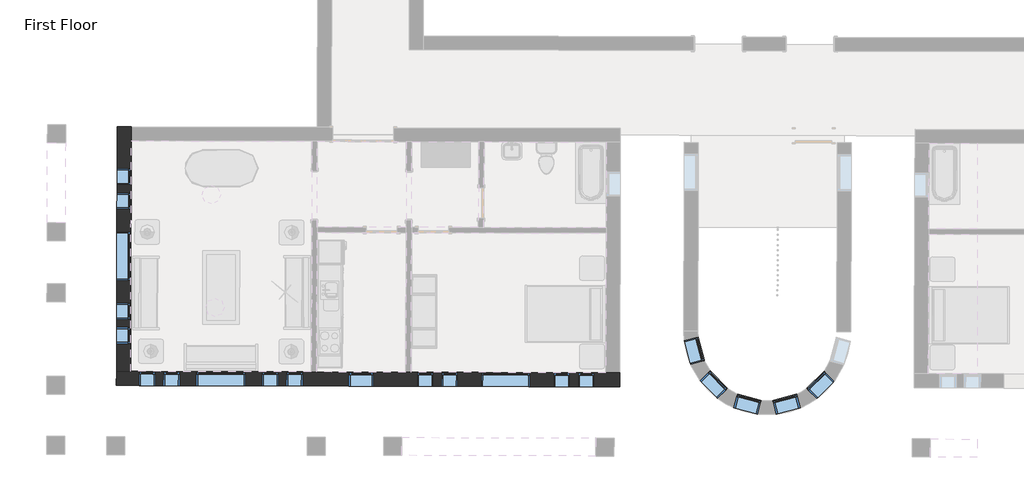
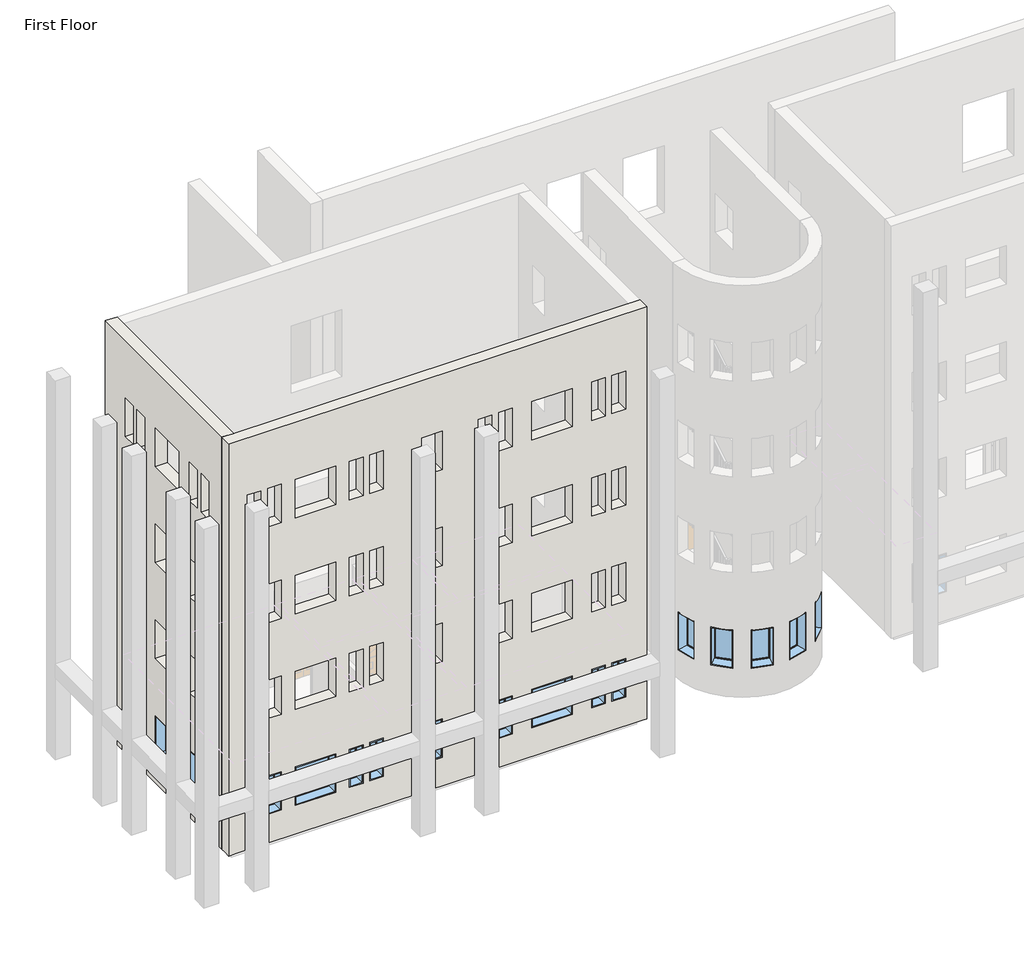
# One storey, part 1 of 23: 21 windows, 2 walls.
"""IFC4 building model written with IfcOpenShell, lengths in millimetres."""

from ifc_helpers import new_model, si_unit, origin, place, context, project, spatial, faceted_brep, transform, mapped, element, save
from components import m_fixed_0406_x_1220mm_57fee329, m_fixed_0406_x_1220mm_85c28f40, m_fixed_0610_x_1220mm_2c28ef1d, m_fixed_0610_x_1220mm_1ea27827, m_fixed_1220_x_1220mm_e08ff7af

model = new_model("IFC4")

# Units and contexts
model_context = context("Model", 3, world=origin())
ifc_project = project(units=[si_unit("LENGTHUNIT", "METRE", prefix="MILLI")], contexts=[model_context])

# Site, building, storey
site = spatial("IfcSite", under=ifc_project)
building = spatial("IfcBuilding", under=site)
storey = spatial("IfcBuildingStorey", under=building, Name="First Floor", Elevation=0.0)

# Walls
placement = place(None, origin())
element("IfcWall", 1, ObjectType="Exterior - Brick on Mtl. Stud", at=placement, inside=storey, context=model_context, shape_type="Brep", body=[
    faceted_brep([(-22692.7768917, -41765.4624379, 0.0), (-22877.7761166, -41764.9268899, 0.0), (-23042.7754252, -41764.4492391, 0.0), (-27891.2551095, -41750.4135399, 0.0), (-28026.7545418, -41750.0212871, 0.0), (-30244.9952471, -41743.5997775, 0.0), (-30380.4946793, -41743.2075247, 0.0), (-34884.7258061, -41730.168379, 0.0), (-35049.7251147, -41729.6907281, 0.0), (-35234.7243395, -41729.1551801, 0.0), (-35234.7243395, -41729.1551801, 13107.0), (-34884.7258061, -41730.168379, 13107.0), (-23042.7754252, -41764.4492391, 13107.0), (-22692.7768917, -41765.4624379, 13107.0), (-29440.8986163, -41745.9275295, 915.0), (-28830.9011723, -41747.6933904, 915.0), (-28830.9011723, -41747.6933904, 2135.0), (-29440.8986163, -41745.9275295, 2135.0), (-26144.7624275, -41755.4694022, 915.0), (-24924.7675394, -41759.001124, 915.0), (-24924.7675394, -41759.001124, 2135.0), (-26144.7624275, -41755.4694022, 2135.0), (-33242.6076867, -41734.922091, 915.0), (-32022.6127987, -41738.4538128, 915.0), (-32022.6127987, -41738.4538128, 2135.0), (-33242.6076867, -41734.922091, 2135.0), (-23730.7725424, -41762.4575796, 915.0), (-23324.7742436, -41763.6328902, 915.0), (-23324.7742436, -41763.6328902, 2135.0), (-23730.7725424, -41762.4575796, 2135.0), (-24340.7699865, -41760.6917187, 915.0), (-23934.7716876, -41761.8670294, 915.0), (-23934.7716876, -41761.8670294, 2135.0), (-24340.7699865, -41760.6917187, 2135.0), (-26728.7599805, -41753.7788075, 915.0), (-26728.7599805, -41753.7788075, 2135.0), (-27134.7582793, -41752.6034968, 2135.0), (-27134.7582793, -41752.6034968, 915.0), (-27338.7574246, -41752.0129466, 915.0), (-27338.7574246, -41752.0129466, 2135.0), (-27744.7557234, -41750.8376359, 2135.0), (-27744.7557234, -41750.8376359, 915.0), (-31607.739537, -41739.6548153, 915.0), (-31201.7412382, -41740.830126, 915.0), (-31201.7412382, -41740.830126, 2135.0), (-31607.739537, -41739.6548153, 2135.0), (-30997.742093, -41741.4206762, 915.0), (-30591.7437942, -41742.5959869, 915.0), (-30591.7437942, -41742.5959869, 2135.0), (-30997.742093, -41741.4206762, 2135.0), (-33657.4809484, -41733.7210885, 915.0), (-33657.4809484, -41733.7210885, 2135.0), (-34063.4792472, -41732.5457778, 2135.0), (-34063.4792472, -41732.5457778, 915.0), (-34267.4783924, -41731.9552276, 915.0), (-34267.4783924, -41731.9552276, 2135.0), (-34673.4766912, -41730.7799169, 2135.0), (-34673.4766912, -41730.7799169, 915.0), (-33657.4809484, -41733.7210885, 10059.0), (-33657.4809484, -41733.7210885, 11279.0), (-34063.4792472, -41732.5457778, 11279.0), (-34063.4792472, -41732.5457778, 10059.0), (-34267.4783924, -41731.9552276, 10059.0), (-34267.4783924, -41731.9552276, 11279.0), (-34673.4766912, -41730.7799169, 11279.0), (-34673.4766912, -41730.7799169, 10059.0), (-31607.739537, -41739.6548153, 10059.0), (-31201.7412382, -41740.830126, 10059.0), (-31201.7412382, -41740.830126, 11279.0), (-31607.739537, -41739.6548153, 11279.0), (-30997.742093, -41741.4206762, 10059.0), (-30591.7437942, -41742.5959869, 10059.0), (-30591.7437942, -41742.5959869, 11279.0), (-30997.742093, -41741.4206762, 11279.0), (-26728.7599805, -41753.7788075, 10059.0), (-26728.7599805, -41753.7788075, 11279.0), (-27134.7582793, -41752.6034968, 11279.0), (-27134.7582793, -41752.6034968, 10059.0), (-27338.7574246, -41752.0129466, 10059.0), (-27338.7574246, -41752.0129466, 11279.0), (-27744.7557234, -41750.8376359, 11279.0), (-27744.7557234, -41750.8376359, 10059.0), (-24340.7699865, -41760.6917187, 10059.0), (-23934.7716876, -41761.8670294, 10059.0), (-23934.7716876, -41761.8670294, 11279.0), (-24340.7699865, -41760.6917187, 11279.0), (-23730.7725424, -41762.4575796, 10059.0), (-23324.7742436, -41763.6328902, 10059.0), (-23324.7742436, -41763.6328902, 11279.0), (-23730.7725424, -41762.4575796, 11279.0), (-33242.6076867, -41734.922091, 10059.0), (-32022.6127987, -41738.4538128, 10059.0), (-32022.6127987, -41738.4538128, 11279.0), (-33242.6076867, -41734.922091, 11279.0), (-26144.7624275, -41755.4694022, 10059.0), (-24924.7675394, -41759.001124, 10059.0), (-24924.7675394, -41759.001124, 11279.0), (-26144.7624275, -41755.4694022, 11279.0), (-29440.8986163, -41745.9275295, 10059.0), (-28830.9011723, -41747.6933904, 10059.0), (-28830.9011723, -41747.6933904, 11279.0), (-29440.8986163, -41745.9275295, 11279.0), (-33657.4809484, -41733.7210885, 3963.0), (-33657.4809484, -41733.7210885, 5183.0), (-34063.4792472, -41732.5457778, 5183.0), (-34063.4792472, -41732.5457778, 3963.0), (-34267.4783924, -41731.9552276, 3963.0), (-34267.4783924, -41731.9552276, 5183.0), (-34673.4766912, -41730.7799169, 5183.0), (-34673.4766912, -41730.7799169, 3963.0), (-31607.739537, -41739.6548153, 3963.0), (-31201.7412382, -41740.830126, 3963.0), (-31201.7412382, -41740.830126, 5183.0), (-31607.739537, -41739.6548153, 5183.0), (-30997.742093, -41741.4206762, 3963.0), (-30591.7437942, -41742.5959869, 3963.0), (-30591.7437942, -41742.5959869, 5183.0), (-30997.742093, -41741.4206762, 5183.0), (-26728.7599805, -41753.7788075, 3963.0), (-26728.7599805, -41753.7788075, 5183.0), (-27134.7582793, -41752.6034968, 5183.0), (-27134.7582793, -41752.6034968, 3963.0), (-27338.7574246, -41752.0129466, 3963.0), (-27338.7574246, -41752.0129466, 5183.0), (-27744.7557234, -41750.8376359, 5183.0), (-27744.7557234, -41750.8376359, 3963.0), (-24340.7699865, -41760.6917187, 3963.0), (-23934.7716876, -41761.8670294, 3963.0), (-23934.7716876, -41761.8670294, 5183.0), (-24340.7699865, -41760.6917187, 5183.0), (-23730.7725424, -41762.4575796, 3963.0), (-23324.7742436, -41763.6328902, 3963.0), (-23324.7742436, -41763.6328902, 5183.0), (-23730.7725424, -41762.4575796, 5183.0), (-33242.6076867, -41734.922091, 3963.0), (-32022.6127987, -41738.4538128, 3963.0), (-32022.6127987, -41738.4538128, 5183.0), (-33242.6076867, -41734.922091, 5183.0), (-26144.7624275, -41755.4694022, 3963.0), (-24924.7675394, -41759.001124, 3963.0), (-24924.7675394, -41759.001124, 5183.0), (-26144.7624275, -41755.4694022, 5183.0), (-29440.8986163, -41745.9275295, 3963.0), (-28830.9011723, -41747.6933904, 3963.0), (-28830.9011723, -41747.6933904, 5183.0), (-29440.8986163, -41745.9275295, 5183.0), (-33657.4809484, -41733.7210885, 7011.0), (-33657.4809484, -41733.7210885, 8231.0), (-34063.4792472, -41732.5457778, 8231.0), (-34063.4792472, -41732.5457778, 7011.0), (-34267.4783924, -41731.9552276, 7011.0), (-34267.4783924, -41731.9552276, 8231.0), (-34673.4766912, -41730.7799169, 8231.0), (-34673.4766912, -41730.7799169, 7011.0), (-31607.739537, -41739.6548153, 7011.0), (-31201.7412382, -41740.830126, 7011.0), (-31201.7412382, -41740.830126, 8231.0), (-31607.739537, -41739.6548153, 8231.0), (-30997.742093, -41741.4206762, 7011.0), (-30591.7437942, -41742.5959869, 7011.0), (-30591.7437942, -41742.5959869, 8231.0), (-30997.742093, -41741.4206762, 8231.0), (-26728.7599805, -41753.7788075, 7011.0), (-26728.7599805, -41753.7788075, 8231.0), (-27134.7582793, -41752.6034968, 8231.0), (-27134.7582793, -41752.6034968, 7011.0), (-27338.7574246, -41752.0129466, 7011.0), (-27338.7574246, -41752.0129466, 8231.0), (-27744.7557234, -41750.8376359, 8231.0), (-27744.7557234, -41750.8376359, 7011.0), (-24340.7699865, -41760.6917187, 7011.0), (-23934.7716876, -41761.8670294, 7011.0), (-23934.7716876, -41761.8670294, 8231.0), (-24340.7699865, -41760.6917187, 8231.0), (-23730.7725424, -41762.4575796, 7011.0), (-23324.7742436, -41763.6328902, 7011.0), (-23324.7742436, -41763.6328902, 8231.0), (-23730.7725424, -41762.4575796, 8231.0), (-33242.6076867, -41734.922091, 7011.0), (-32022.6127987, -41738.4538128, 7011.0), (-32022.6127987, -41738.4538128, 8231.0), (-33242.6076867, -41734.922091, 8231.0), (-26144.7624275, -41755.4694022, 7011.0), (-24924.7675394, -41759.001124, 7011.0), (-24924.7675394, -41759.001124, 8231.0), (-26144.7624275, -41755.4694022, 8231.0), (-29440.8986163, -41745.9275295, 7011.0), (-28830.9011723, -41747.6933904, 7011.0), (-28830.9011723, -41747.6933904, 8231.0), (-29440.8986163, -41745.9275295, 8231.0), (-22693.7900906, -42115.4609714, 0.0), (-22693.7900906, -42115.4609714, 13107.0), (-35235.7375384, -42079.1537136, 13107.0), (-35235.7375384, -42079.1537136, 0.0), (-35050.7383136, -42079.6892616, 0.0), (-22878.7893155, -42114.9254234, 0.0), (-29441.9118152, -42095.9260629, 915.0), (-29441.9118152, -42095.9260629, 2135.0), (-28831.9143712, -42097.6919238, 2135.0), (-28831.9143712, -42097.6919238, 915.0), (-26145.7756264, -42105.4679357, 915.0), (-26145.7756264, -42105.4679357, 2135.0), (-24925.7807383, -42108.9996575, 2135.0), (-24925.7807383, -42108.9996575, 915.0), (-33243.6208856, -42084.9206245, 915.0), (-33243.6208856, -42084.9206245, 2135.0), (-32023.6259975, -42088.4523462, 2135.0), (-32023.6259975, -42088.4523462, 915.0), (-23731.7857413, -42112.456113, 915.0), (-23731.7857413, -42112.456113, 2135.0), (-23325.7874425, -42113.6314237, 2135.0), (-23325.7874425, -42113.6314237, 915.0), (-24341.7831853, -42110.6902521, 915.0), (-24341.7831853, -42110.6902521, 2135.0), (-23935.7848865, -42111.8655628, 2135.0), (-23935.7848865, -42111.8655628, 915.0), (-26729.7731794, -42103.777341, 915.0), (-27135.7714782, -42102.6020303, 915.0), (-27135.7714782, -42102.6020303, 2135.0), (-26729.7731794, -42103.777341, 2135.0), (-27339.7706234, -42102.0114801, 915.0), (-27745.7689222, -42100.8361694, 915.0), (-27745.7689222, -42100.8361694, 2135.0), (-27339.7706234, -42102.0114801, 2135.0), (-31608.7527359, -42089.6533487, 915.0), (-31608.7527359, -42089.6533487, 2135.0), (-31202.7544371, -42090.8286594, 2135.0), (-31202.7544371, -42090.8286594, 915.0), (-30998.7552919, -42091.4192096, 915.0), (-30998.7552919, -42091.4192096, 2135.0), (-30592.756993, -42092.5945203, 2135.0), (-30592.756993, -42092.5945203, 915.0), (-33658.4941472, -42083.7196219, 915.0), (-34064.4924461, -42082.5443112, 915.0), (-34064.4924461, -42082.5443112, 2135.0), (-33658.4941472, -42083.7196219, 2135.0), (-34268.4915913, -42081.953761, 915.0), (-34674.4898901, -42080.7784504, 915.0), (-34674.4898901, -42080.7784504, 2135.0), (-34268.4915913, -42081.953761, 2135.0), (-33658.4941472, -42083.7196219, 10059.0), (-34064.4924461, -42082.5443112, 10059.0), (-34064.4924461, -42082.5443112, 11279.0), (-33658.4941472, -42083.7196219, 11279.0), (-34268.4915913, -42081.953761, 10059.0), (-34674.4898901, -42080.7784504, 10059.0), (-34674.4898901, -42080.7784504, 11279.0), (-34268.4915913, -42081.953761, 11279.0), (-31608.7527359, -42089.6533487, 10059.0), (-31608.7527359, -42089.6533487, 11279.0), (-31202.7544371, -42090.8286594, 11279.0), (-31202.7544371, -42090.8286594, 10059.0), (-30998.7552919, -42091.4192096, 10059.0), (-30998.7552919, -42091.4192096, 11279.0), (-30592.756993, -42092.5945203, 11279.0), (-30592.756993, -42092.5945203, 10059.0), (-26729.7731794, -42103.777341, 10059.0), (-27135.7714782, -42102.6020303, 10059.0), (-27135.7714782, -42102.6020303, 11279.0), (-26729.7731794, -42103.777341, 11279.0), (-27339.7706234, -42102.0114801, 10059.0), (-27745.7689222, -42100.8361694, 10059.0), (-27745.7689222, -42100.8361694, 11279.0), (-27339.7706234, -42102.0114801, 11279.0), (-24341.7831853, -42110.6902521, 10059.0), (-24341.7831853, -42110.6902521, 11279.0), (-23935.7848865, -42111.8655628, 11279.0), (-23935.7848865, -42111.8655628, 10059.0), (-23731.7857413, -42112.456113, 10059.0), (-23731.7857413, -42112.456113, 11279.0), (-23325.7874425, -42113.6314237, 11279.0), (-23325.7874425, -42113.6314237, 10059.0), (-33243.6208856, -42084.9206245, 10059.0), (-33243.6208856, -42084.9206245, 11279.0), (-32023.6259975, -42088.4523462, 11279.0), (-32023.6259975, -42088.4523462, 10059.0), (-26145.7756264, -42105.4679357, 10059.0), (-26145.7756264, -42105.4679357, 11279.0), (-24925.7807383, -42108.9996575, 11279.0), (-24925.7807383, -42108.9996575, 10059.0), (-29441.9118152, -42095.9260629, 10059.0), (-29441.9118152, -42095.9260629, 11279.0), (-28831.9143712, -42097.6919238, 11279.0), (-28831.9143712, -42097.6919238, 10059.0), (-33658.4941472, -42083.7196219, 3963.0), (-34064.4924461, -42082.5443112, 3963.0), (-34064.4924461, -42082.5443112, 5183.0), (-33658.4941472, -42083.7196219, 5183.0), (-34268.4915913, -42081.953761, 3963.0), (-34674.4898901, -42080.7784504, 3963.0), (-34674.4898901, -42080.7784504, 5183.0), (-34268.4915913, -42081.953761, 5183.0), (-31608.7527359, -42089.6533487, 3963.0), (-31608.7527359, -42089.6533487, 5183.0), (-31202.7544371, -42090.8286594, 5183.0), (-31202.7544371, -42090.8286594, 3963.0), (-30998.7552919, -42091.4192096, 3963.0), (-30998.7552919, -42091.4192096, 5183.0), (-30592.756993, -42092.5945203, 5183.0), (-30592.756993, -42092.5945203, 3963.0), (-26729.7731794, -42103.777341, 3963.0), (-27135.7714782, -42102.6020303, 3963.0), (-27135.7714782, -42102.6020303, 5183.0), (-26729.7731794, -42103.777341, 5183.0), (-27339.7706234, -42102.0114801, 3963.0), (-27745.7689222, -42100.8361694, 3963.0), (-27745.7689222, -42100.8361694, 5183.0), (-27339.7706234, -42102.0114801, 5183.0), (-24341.7831853, -42110.6902521, 3963.0), (-24341.7831853, -42110.6902521, 5183.0), (-23935.7848865, -42111.8655628, 5183.0), (-23935.7848865, -42111.8655628, 3963.0), (-23731.7857413, -42112.456113, 3963.0), (-23731.7857413, -42112.456113, 5183.0), (-23325.7874425, -42113.6314237, 5183.0), (-23325.7874425, -42113.6314237, 3963.0), (-33243.6208856, -42084.9206245, 3963.0), (-33243.6208856, -42084.9206245, 5183.0), (-32023.6259975, -42088.4523462, 5183.0), (-32023.6259975, -42088.4523462, 3963.0), (-26145.7756264, -42105.4679357, 3963.0), (-26145.7756264, -42105.4679357, 5183.0), (-24925.7807383, -42108.9996575, 5183.0), (-24925.7807383, -42108.9996575, 3963.0), (-29441.9118152, -42095.9260629, 3963.0), (-29441.9118152, -42095.9260629, 5183.0), (-28831.9143712, -42097.6919238, 5183.0), (-28831.9143712, -42097.6919238, 3963.0), (-33658.4941472, -42083.7196219, 7011.0), (-34064.4924461, -42082.5443112, 7011.0), (-34064.4924461, -42082.5443112, 8231.0), (-33658.4941472, -42083.7196219, 8231.0), (-34268.4915913, -42081.953761, 7011.0), (-34674.4898901, -42080.7784504, 7011.0), (-34674.4898901, -42080.7784504, 8231.0), (-34268.4915913, -42081.953761, 8231.0), (-31608.7527359, -42089.6533487, 7011.0), (-31608.7527359, -42089.6533487, 8231.0), (-31202.7544371, -42090.8286594, 8231.0), (-31202.7544371, -42090.8286594, 7011.0), (-30998.7552919, -42091.4192096, 7011.0), (-30998.7552919, -42091.4192096, 8231.0), (-30592.756993, -42092.5945203, 8231.0), (-30592.756993, -42092.5945203, 7011.0), (-26729.7731794, -42103.777341, 7011.0), (-27135.7714782, -42102.6020303, 7011.0), (-27135.7714782, -42102.6020303, 8231.0), (-26729.7731794, -42103.777341, 8231.0), (-27339.7706234, -42102.0114801, 7011.0), (-27745.7689222, -42100.8361694, 7011.0), (-27745.7689222, -42100.8361694, 8231.0), (-27339.7706234, -42102.0114801, 8231.0), (-24341.7831853, -42110.6902521, 7011.0), (-24341.7831853, -42110.6902521, 8231.0), (-23935.7848865, -42111.8655628, 8231.0), (-23935.7848865, -42111.8655628, 7011.0), (-23731.7857413, -42112.456113, 7011.0), (-23731.7857413, -42112.456113, 8231.0), (-23325.7874425, -42113.6314237, 8231.0), (-23325.7874425, -42113.6314237, 7011.0), (-33243.6208856, -42084.9206245, 7011.0), (-33243.6208856, -42084.9206245, 8231.0), (-32023.6259975, -42088.4523462, 8231.0), (-32023.6259975, -42088.4523462, 7011.0), (-26145.7756264, -42105.4679357, 7011.0), (-26145.7756264, -42105.4679357, 8231.0), (-24925.7807383, -42108.9996575, 8231.0), (-24925.7807383, -42108.9996575, 7011.0), (-29441.9118152, -42095.9260629, 7011.0), (-29441.9118152, -42095.9260629, 8231.0), (-28831.9143712, -42097.6919238, 8231.0), (-28831.9143712, -42097.6919238, 7011.0), (-35235.2019904, -41894.1544888, 0.0), (-22693.2545426, -41930.4617466, 0.0), (-22878.2537675, -41929.9261986, 0.0), (-35050.2027656, -41894.6900367, 0.0)], [[[0, 1, 2, 3, 4, 5, 6, 7, 8, 9, 10, 11, 12, 13], [14, 15, 16, 17], [18, 19, 20, 21], [22, 23, 24, 25], [26, 27, 28, 29], [30, 31, 32, 33], [34, 35, 36, 37], [38, 39, 40, 41], [42, 43, 44, 45], [46, 47, 48, 49], [50, 51, 52, 53], [54, 55, 56, 57], [58, 59, 60, 61], [62, 63, 64, 65], [66, 67, 68, 69], [70, 71, 72, 73], [74, 75, 76, 77], [78, 79, 80, 81], [82, 83, 84, 85], [86, 87, 88, 89], [90, 91, 92, 93], [94, 95, 96, 97], [98, 99, 100, 101], [102, 103, 104, 105], [106, 107, 108, 109], [110, 111, 112, 113], [114, 115, 116, 117], [118, 119, 120, 121], [122, 123, 124, 125], [126, 127, 128, 129], [130, 131, 132, 133], [134, 135, 136, 137], [138, 139, 140, 141], [142, 143, 144, 145], [146, 147, 148, 149], [150, 151, 152, 153], [154, 155, 156, 157], [158, 159, 160, 161], [162, 163, 164, 165], [166, 167, 168, 169], [170, 171, 172, 173], [174, 175, 176, 177], [178, 179, 180, 181], [182, 183, 184, 185], [186, 187, 188, 189]], [[190, 191, 192, 193, 194, 195], [196, 197, 198, 199], [200, 201, 202, 203], [204, 205, 206, 207], [208, 209, 210, 211], [212, 213, 214, 215], [216, 217, 218, 219], [220, 221, 222, 223], [224, 225, 226, 227], [228, 229, 230, 231], [232, 233, 234, 235], [236, 237, 238, 239], [240, 241, 242, 243], [244, 245, 246, 247], [248, 249, 250, 251], [252, 253, 254, 255], [256, 257, 258, 259], [260, 261, 262, 263], [264, 265, 266, 267], [268, 269, 270, 271], [272, 273, 274, 275], [276, 277, 278, 279], [280, 281, 282, 283], [284, 285, 286, 287], [288, 289, 290, 291], [292, 293, 294, 295], [296, 297, 298, 299], [300, 301, 302, 303], [304, 305, 306, 307], [308, 309, 310, 311], [312, 313, 314, 315], [316, 317, 318, 319], [320, 321, 322, 323], [324, 325, 326, 327], [328, 329, 330, 331], [332, 333, 334, 335], [336, 337, 338, 339], [340, 341, 342, 343], [344, 345, 346, 347], [348, 349, 350, 351], [352, 353, 354, 355], [356, 357, 358, 359], [360, 361, 362, 363], [364, 365, 366, 367], [368, 369, 370, 371]], [[13, 12, 11, 10, 192, 191]], [[10, 9, 372, 193, 192]], [[0, 13, 191, 190, 373]], [[197, 196, 14, 17]], [[198, 197, 17, 16]], [[199, 198, 16, 15]], [[196, 199, 15, 14]], [[201, 200, 18, 21]], [[202, 201, 21, 20]], [[203, 202, 20, 19]], [[200, 203, 19, 18]], [[205, 204, 22, 25]], [[206, 205, 25, 24]], [[207, 206, 24, 23]], [[204, 207, 23, 22]], [[209, 208, 26, 29]], [[210, 209, 29, 28]], [[211, 210, 28, 27]], [[208, 211, 27, 26]], [[213, 212, 30, 33]], [[214, 213, 33, 32]], [[215, 214, 32, 31]], [[212, 215, 31, 30]], [[35, 34, 216, 219]], [[36, 35, 219, 218]], [[37, 36, 218, 217]], [[34, 37, 217, 216]], [[39, 38, 220, 223]], [[40, 39, 223, 222]], [[41, 40, 222, 221]], [[38, 41, 221, 220]], [[225, 224, 42, 45]], [[226, 225, 45, 44]], [[227, 226, 44, 43]], [[224, 227, 43, 42]], [[229, 228, 46, 49]], [[230, 229, 49, 48]], [[231, 230, 48, 47]], [[228, 231, 47, 46]], [[51, 50, 232, 235]], [[52, 51, 235, 234]], [[53, 52, 234, 233]], [[50, 53, 233, 232]], [[55, 54, 236, 239]], [[56, 55, 239, 238]], [[57, 56, 238, 237]], [[54, 57, 237, 236]], [[1, 0, 373, 374]], [[373, 190, 195, 374]], [[9, 8, 375, 372]], [[195, 194, 375, 374]], [[194, 193, 372, 375]], [[8, 7, 6, 5, 4, 3, 2, 1, 374, 375]], [[59, 58, 240, 243]], [[60, 59, 243, 242]], [[61, 60, 242, 241]], [[58, 61, 241, 240]], [[63, 62, 244, 247]], [[64, 63, 247, 246]], [[65, 64, 246, 245]], [[62, 65, 245, 244]], [[249, 248, 66, 69]], [[250, 249, 69, 68]], [[251, 250, 68, 67]], [[248, 251, 67, 66]], [[253, 252, 70, 73]], [[254, 253, 73, 72]], [[255, 254, 72, 71]], [[252, 255, 71, 70]], [[75, 74, 256, 259]], [[76, 75, 259, 258]], [[77, 76, 258, 257]], [[74, 77, 257, 256]], [[79, 78, 260, 263]], [[80, 79, 263, 262]], [[81, 80, 262, 261]], [[78, 81, 261, 260]], [[265, 264, 82, 85]], [[266, 265, 85, 84]], [[267, 266, 84, 83]], [[264, 267, 83, 82]], [[269, 268, 86, 89]], [[270, 269, 89, 88]], [[271, 270, 88, 87]], [[268, 271, 87, 86]], [[273, 272, 90, 93]], [[274, 273, 93, 92]], [[275, 274, 92, 91]], [[272, 275, 91, 90]], [[277, 276, 94, 97]], [[278, 277, 97, 96]], [[279, 278, 96, 95]], [[276, 279, 95, 94]], [[281, 280, 98, 101]], [[282, 281, 101, 100]], [[283, 282, 100, 99]], [[280, 283, 99, 98]], [[103, 102, 284, 287]], [[104, 103, 287, 286]], [[105, 104, 286, 285]], [[102, 105, 285, 284]], [[107, 106, 288, 291]], [[108, 107, 291, 290]], [[109, 108, 290, 289]], [[106, 109, 289, 288]], [[293, 292, 110, 113]], [[294, 293, 113, 112]], [[295, 294, 112, 111]], [[292, 295, 111, 110]], [[297, 296, 114, 117]], [[298, 297, 117, 116]], [[299, 298, 116, 115]], [[296, 299, 115, 114]], [[119, 118, 300, 303]], [[120, 119, 303, 302]], [[121, 120, 302, 301]], [[118, 121, 301, 300]], [[123, 122, 304, 307]], [[124, 123, 307, 306]], [[125, 124, 306, 305]], [[122, 125, 305, 304]], [[309, 308, 126, 129]], [[310, 309, 129, 128]], [[311, 310, 128, 127]], [[308, 311, 127, 126]], [[313, 312, 130, 133]], [[314, 313, 133, 132]], [[315, 314, 132, 131]], [[312, 315, 131, 130]], [[317, 316, 134, 137]], [[318, 317, 137, 136]], [[319, 318, 136, 135]], [[316, 319, 135, 134]], [[321, 320, 138, 141]], [[322, 321, 141, 140]], [[323, 322, 140, 139]], [[320, 323, 139, 138]], [[325, 324, 142, 145]], [[326, 325, 145, 144]], [[327, 326, 144, 143]], [[324, 327, 143, 142]], [[147, 146, 328, 331]], [[148, 147, 331, 330]], [[149, 148, 330, 329]], [[146, 149, 329, 328]], [[151, 150, 332, 335]], [[152, 151, 335, 334]], [[153, 152, 334, 333]], [[150, 153, 333, 332]], [[337, 336, 154, 157]], [[338, 337, 157, 156]], [[339, 338, 156, 155]], [[336, 339, 155, 154]], [[341, 340, 158, 161]], [[342, 341, 161, 160]], [[343, 342, 160, 159]], [[340, 343, 159, 158]], [[163, 162, 344, 347]], [[164, 163, 347, 346]], [[165, 164, 346, 345]], [[162, 165, 345, 344]], [[167, 166, 348, 351]], [[168, 167, 351, 350]], [[169, 168, 350, 349]], [[166, 169, 349, 348]], [[353, 352, 170, 173]], [[354, 353, 173, 172]], [[355, 354, 172, 171]], [[352, 355, 171, 170]], [[357, 356, 174, 177]], [[358, 357, 177, 176]], [[359, 358, 176, 175]], [[356, 359, 175, 174]], [[361, 360, 178, 181]], [[362, 361, 181, 180]], [[363, 362, 180, 179]], [[360, 363, 179, 178]], [[365, 364, 182, 185]], [[366, 365, 185, 184]], [[367, 366, 184, 183]], [[364, 367, 183, 182]], [[369, 368, 186, 189]], [[370, 369, 189, 188]], [[371, 370, 188, 187]], [[368, 371, 187, 186]]]),
])
element("IfcWall", 2, ObjectType="Exterior - Brick on Mtl. Stud", at=placement, inside=storey, context=model_context, shape_type="Brep", body=[
    faceted_brep([(-34884.7258061, -41730.168379, 0.0), (-34868.0919755, -35984.1924553, 0.0), (-34867.6143246, -35819.1931467, 0.0), (-34867.0787766, -35634.1939218, 0.0), (-34867.0787766, -35634.1939218, 13107.0), (-34868.0919755, -35984.1924553, 13107.0), (-34884.7258061, -41730.168379, 13107.0), (-34874.6430299, -38247.1829731, 915.0), (-34878.1747517, -39467.1778612, 915.0), (-34878.1747517, -39467.1778612, 2135.0), (-34874.6430299, -38247.1829731, 2135.0), (-34879.7900801, -40025.1755231, 915.0), (-34880.9653908, -40431.1738219, 915.0), (-34880.9653908, -40431.1738219, 2135.0), (-34879.7900801, -40025.1755231, 2135.0), (-34881.555941, -40635.1729672, 915.0), (-34882.7312517, -41041.171266, 915.0), (-34882.7312517, -41041.171266, 2135.0), (-34881.555941, -40635.1729672, 2135.0), (-34873.0277014, -37689.1853112, 915.0), (-34873.0277014, -37689.1853112, 2135.0), (-34871.8523907, -37283.1870124, 2135.0), (-34871.8523907, -37283.1870124, 915.0), (-34871.2618405, -37079.1878671, 915.0), (-34871.2618405, -37079.1878671, 2135.0), (-34870.0865298, -36673.1895683, 2135.0), (-34870.0865298, -36673.1895683, 915.0), (-34873.0277014, -37689.1853112, 10059.0), (-34873.0277014, -37689.1853112, 11279.0), (-34871.8523907, -37283.1870124, 11279.0), (-34871.8523907, -37283.1870124, 10059.0), (-34871.2618405, -37079.1878671, 10059.0), (-34871.2618405, -37079.1878671, 11279.0), (-34870.0865298, -36673.1895683, 11279.0), (-34870.0865298, -36673.1895683, 10059.0), (-34879.7900801, -40025.1755231, 10059.0), (-34880.9653908, -40431.1738219, 10059.0), (-34880.9653908, -40431.1738219, 11279.0), (-34879.7900801, -40025.1755231, 11279.0), (-34881.555941, -40635.1729672, 10059.0), (-34882.7312517, -41041.171266, 10059.0), (-34882.7312517, -41041.171266, 11279.0), (-34881.555941, -40635.1729672, 11279.0), (-34874.6430299, -38247.1829731, 10059.0), (-34878.1747517, -39467.1778612, 10059.0), (-34878.1747517, -39467.1778612, 11279.0), (-34874.6430299, -38247.1829731, 11279.0), (-34873.0277014, -37689.1853112, 3963.0), (-34873.0277014, -37689.1853112, 5183.0), (-34871.8523907, -37283.1870124, 5183.0), (-34871.8523907, -37283.1870124, 3963.0), (-34871.2618405, -37079.1878671, 3963.0), (-34871.2618405, -37079.1878671, 5183.0), (-34870.0865298, -36673.1895683, 5183.0), (-34870.0865298, -36673.1895683, 3963.0), (-34879.7900801, -40025.1755231, 3963.0), (-34880.9653908, -40431.1738219, 3963.0), (-34880.9653908, -40431.1738219, 5183.0), (-34879.7900801, -40025.1755231, 5183.0), (-34881.555941, -40635.1729672, 3963.0), (-34882.7312517, -41041.171266, 3963.0), (-34882.7312517, -41041.171266, 5183.0), (-34881.555941, -40635.1729672, 5183.0), (-34874.6430299, -38247.1829731, 3963.0), (-34878.1747517, -39467.1778612, 3963.0), (-34878.1747517, -39467.1778612, 5183.0), (-34874.6430299, -38247.1829731, 5183.0), (-34873.0277014, -37689.1853112, 7011.0), (-34873.0277014, -37689.1853112, 8231.0), (-34871.8523907, -37283.1870124, 8231.0), (-34871.8523907, -37283.1870124, 7011.0), (-34871.2618405, -37079.1878671, 7011.0), (-34871.2618405, -37079.1878671, 8231.0), (-34870.0865298, -36673.1895683, 8231.0), (-34870.0865298, -36673.1895683, 7011.0), (-34879.7900801, -40025.1755231, 7011.0), (-34880.9653908, -40431.1738219, 7011.0), (-34880.9653908, -40431.1738219, 8231.0), (-34879.7900801, -40025.1755231, 8231.0), (-34881.555941, -40635.1729672, 7011.0), (-34882.7312517, -41041.171266, 7011.0), (-34882.7312517, -41041.171266, 8231.0), (-34881.555941, -40635.1729672, 8231.0), (-34874.6430299, -38247.1829731, 7011.0), (-34878.1747517, -39467.1778612, 7011.0), (-34878.1747517, -39467.1778612, 8231.0), (-34874.6430299, -38247.1829731, 8231.0), (-35234.7243395, -41729.1551801, 0.0), (-35234.7243395, -41729.1551801, 13107.0), (-35217.0773101, -35633.180723, 13107.0), (-35217.0773101, -35633.180723, 0.0), (-35217.612858, -35818.1799478, 0.0), (-35224.6415634, -38246.1697742, 915.0), (-35224.6415634, -38246.1697742, 2135.0), (-35228.1732851, -39466.1646623, 2135.0), (-35228.1732851, -39466.1646623, 915.0), (-35229.7886136, -40024.1623242, 915.0), (-35229.7886136, -40024.1623242, 2135.0), (-35230.9639243, -40430.1606231, 2135.0), (-35230.9639243, -40430.1606231, 915.0), (-35231.5544745, -40634.1597683, 915.0), (-35231.5544745, -40634.1597683, 2135.0), (-35232.7297852, -41040.1580671, 2135.0), (-35232.7297852, -41040.1580671, 915.0), (-35223.0262349, -37688.1721123, 915.0), (-35221.8509242, -37282.1738135, 915.0), (-35221.8509242, -37282.1738135, 2135.0), (-35223.0262349, -37688.1721123, 2135.0), (-35221.260374, -37078.1746683, 915.0), (-35220.0850633, -36672.1763695, 915.0), (-35220.0850633, -36672.1763695, 2135.0), (-35221.260374, -37078.1746683, 2135.0), (-35223.0262349, -37688.1721123, 10059.0), (-35221.8509242, -37282.1738135, 10059.0), (-35221.8509242, -37282.1738135, 11279.0), (-35223.0262349, -37688.1721123, 11279.0), (-35221.260374, -37078.1746683, 10059.0), (-35220.0850633, -36672.1763695, 10059.0), (-35220.0850633, -36672.1763695, 11279.0), (-35221.260374, -37078.1746683, 11279.0), (-35229.7886136, -40024.1623242, 10059.0), (-35229.7886136, -40024.1623242, 11279.0), (-35230.9639243, -40430.1606231, 11279.0), (-35230.9639243, -40430.1606231, 10059.0), (-35231.5544745, -40634.1597683, 10059.0), (-35231.5544745, -40634.1597683, 11279.0), (-35232.7297852, -41040.1580671, 11279.0), (-35232.7297852, -41040.1580671, 10059.0), (-35224.6415634, -38246.1697742, 10059.0), (-35224.6415634, -38246.1697742, 11279.0), (-35228.1732851, -39466.1646623, 11279.0), (-35228.1732851, -39466.1646623, 10059.0), (-35223.0262349, -37688.1721123, 3963.0), (-35221.8509242, -37282.1738135, 3963.0), (-35221.8509242, -37282.1738135, 5183.0), (-35223.0262349, -37688.1721123, 5183.0), (-35221.260374, -37078.1746683, 3963.0), (-35220.0850633, -36672.1763695, 3963.0), (-35220.0850633, -36672.1763695, 5183.0), (-35221.260374, -37078.1746683, 5183.0), (-35229.7886136, -40024.1623242, 3963.0), (-35229.7886136, -40024.1623242, 5183.0), (-35230.9639243, -40430.1606231, 5183.0), (-35230.9639243, -40430.1606231, 3963.0), (-35231.5544745, -40634.1597683, 3963.0), (-35231.5544745, -40634.1597683, 5183.0), (-35232.7297852, -41040.1580671, 5183.0), (-35232.7297852, -41040.1580671, 3963.0), (-35224.6415634, -38246.1697742, 3963.0), (-35224.6415634, -38246.1697742, 5183.0), (-35228.1732851, -39466.1646623, 5183.0), (-35228.1732851, -39466.1646623, 3963.0), (-35223.0262349, -37688.1721123, 7011.0), (-35221.8509242, -37282.1738135, 7011.0), (-35221.8509242, -37282.1738135, 8231.0), (-35223.0262349, -37688.1721123, 8231.0), (-35221.260374, -37078.1746683, 7011.0), (-35220.0850633, -36672.1763695, 7011.0), (-35220.0850633, -36672.1763695, 8231.0), (-35221.260374, -37078.1746683, 8231.0), (-35229.7886136, -40024.1623242, 7011.0), (-35229.7886136, -40024.1623242, 8231.0), (-35230.9639243, -40430.1606231, 8231.0), (-35230.9639243, -40430.1606231, 7011.0), (-35231.5544745, -40634.1597683, 7011.0), (-35231.5544745, -40634.1597683, 8231.0), (-35232.7297852, -41040.1580671, 8231.0), (-35232.7297852, -41040.1580671, 7011.0), (-35224.6415634, -38246.1697742, 7011.0), (-35224.6415634, -38246.1697742, 8231.0), (-35228.1732851, -39466.1646623, 8231.0), (-35228.1732851, -39466.1646623, 7011.0), (-35049.7251147, -41729.6907281, 0.0), (-35032.0780852, -35633.7162709, 0.0), (-35032.6136332, -35818.7154958, 0.0)], [[[0, 1, 2, 3, 4, 5, 6], [7, 8, 9, 10], [11, 12, 13, 14], [15, 16, 17, 18], [19, 20, 21, 22], [23, 24, 25, 26], [27, 28, 29, 30], [31, 32, 33, 34], [35, 36, 37, 38], [39, 40, 41, 42], [43, 44, 45, 46], [47, 48, 49, 50], [51, 52, 53, 54], [55, 56, 57, 58], [59, 60, 61, 62], [63, 64, 65, 66], [67, 68, 69, 70], [71, 72, 73, 74], [75, 76, 77, 78], [79, 80, 81, 82], [83, 84, 85, 86]], [[87, 88, 89, 90, 91], [92, 93, 94, 95], [96, 97, 98, 99], [100, 101, 102, 103], [104, 105, 106, 107], [108, 109, 110, 111], [112, 113, 114, 115], [116, 117, 118, 119], [120, 121, 122, 123], [124, 125, 126, 127], [128, 129, 130, 131], [132, 133, 134, 135], [136, 137, 138, 139], [140, 141, 142, 143], [144, 145, 146, 147], [148, 149, 150, 151], [152, 153, 154, 155], [156, 157, 158, 159], [160, 161, 162, 163], [164, 165, 166, 167], [168, 169, 170, 171]], [[6, 5, 4, 89, 88]], [[0, 6, 88, 87, 172]], [[4, 3, 173, 90, 89]], [[93, 92, 7, 10]], [[94, 93, 10, 9]], [[95, 94, 9, 8]], [[92, 95, 8, 7]], [[97, 96, 11, 14]], [[98, 97, 14, 13]], [[99, 98, 13, 12]], [[96, 99, 12, 11]], [[101, 100, 15, 18]], [[102, 101, 18, 17]], [[103, 102, 17, 16]], [[100, 103, 16, 15]], [[20, 19, 104, 107]], [[21, 20, 107, 106]], [[22, 21, 106, 105]], [[19, 22, 105, 104]], [[24, 23, 108, 111]], [[25, 24, 111, 110]], [[26, 25, 110, 109]], [[23, 26, 109, 108]], [[172, 87, 91, 174]], [[3, 2, 174, 173]], [[174, 91, 90, 173]], [[2, 1, 0, 172, 174]], [[28, 27, 112, 115]], [[29, 28, 115, 114]], [[30, 29, 114, 113]], [[27, 30, 113, 112]], [[32, 31, 116, 119]], [[33, 32, 119, 118]], [[34, 33, 118, 117]], [[31, 34, 117, 116]], [[121, 120, 35, 38]], [[122, 121, 38, 37]], [[123, 122, 37, 36]], [[120, 123, 36, 35]], [[125, 124, 39, 42]], [[126, 125, 42, 41]], [[127, 126, 41, 40]], [[124, 127, 40, 39]], [[129, 128, 43, 46]], [[130, 129, 46, 45]], [[131, 130, 45, 44]], [[128, 131, 44, 43]], [[48, 47, 132, 135]], [[49, 48, 135, 134]], [[50, 49, 134, 133]], [[47, 50, 133, 132]], [[52, 51, 136, 139]], [[53, 52, 139, 138]], [[54, 53, 138, 137]], [[51, 54, 137, 136]], [[141, 140, 55, 58]], [[142, 141, 58, 57]], [[143, 142, 57, 56]], [[140, 143, 56, 55]], [[145, 144, 59, 62]], [[146, 145, 62, 61]], [[147, 146, 61, 60]], [[144, 147, 60, 59]], [[149, 148, 63, 66]], [[150, 149, 66, 65]], [[151, 150, 65, 64]], [[148, 151, 64, 63]], [[68, 67, 152, 155]], [[69, 68, 155, 154]], [[70, 69, 154, 153]], [[67, 70, 153, 152]], [[72, 71, 156, 159]], [[73, 72, 159, 158]], [[74, 73, 158, 157]], [[71, 74, 157, 156]], [[161, 160, 75, 78]], [[162, 161, 78, 77]], [[163, 162, 77, 76]], [[160, 163, 76, 75]], [[165, 164, 79, 82]], [[166, 165, 82, 81]], [[167, 166, 81, 80]], [[164, 167, 80, 79]], [[169, 168, 83, 86]], [[170, 169, 86, 85]], [[171, 170, 85, 84]], [[168, 171, 84, 83]]]),
])

# Windows
m_fixed_0406_x_1220mm_shape = m_fixed_0406_x_1220mm_57fee329(model_context)
element("IfcWindow", 3, ObjectType="M_Fixed : 0406 x 1220mm", at=placement, inside=storey, context=model_context, shape_type="MappedRepresentation", body=[
    mapped(m_fixed_0406_x_1220mm_shape, transform((-23528.3176256, -41951.0444472, 0.0), x_axis=(0.9999958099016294, -0.0028948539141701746, 0.0), y_axis=(0.0028948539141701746, 0.9999958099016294, 0.0), z_axis=(0.0, 0.0, 1.0))),
])
element("IfcWindow", 4, ObjectType="M_Fixed : 0406 x 1220mm", at=placement, inside=storey, context=model_context, shape_type="MappedRepresentation", body=[
    mapped(m_fixed_0406_x_1220mm_shape, transform((-24138.3150696, -41949.2785863, 0.0), x_axis=(0.9999958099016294, -0.0028948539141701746, 0.0), y_axis=(0.0028948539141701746, 0.9999958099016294, 0.0), z_axis=(0.0, 0.0, 1.0))),
])
element("IfcWindow", 5, ObjectType="M_Fixed : 0406 x 1220mm", at=placement, inside=storey, context=model_context, shape_type="MappedRepresentation", body=[
    mapped(m_fixed_0406_x_1220mm_shape, transform((-30795.2871761, -41930.0075438, 0.0), x_axis=(0.9999958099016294, -0.0028948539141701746, 0.0), y_axis=(0.0028948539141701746, 0.9999958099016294, 0.0), z_axis=(0.0, 0.0, 1.0))),
])
element("IfcWindow", 6, ObjectType="M_Fixed : 0406 x 1220mm", at=placement, inside=storey, context=model_context, shape_type="MappedRepresentation", body=[
    mapped(m_fixed_0406_x_1220mm_shape, transform((-31405.2846201, -41928.2416829, 0.0), x_axis=(0.9999958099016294, -0.0028948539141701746, 0.0), y_axis=(0.0028948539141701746, 0.9999958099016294, 0.0), z_axis=(0.0, 0.0, 1.0))),
])
element("IfcWindow", 7, ObjectType="M_Fixed : 0406 x 1220mm", at=placement, inside=storey, context=model_context, shape_type="MappedRepresentation", body=[
    mapped(m_fixed_0406_x_1220mm_shape, transform((-35070.1428086, -40837.627884, 0.0), x_axis=(-0.002894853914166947, -0.9999958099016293, 0.0), y_axis=(0.9999958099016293, -0.002894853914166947, 0.0), z_axis=(0.0, 0.0, 1.0))),
])
element("IfcWindow", 8, ObjectType="M_Fixed : 0406 x 1220mm", at=placement, inside=storey, context=model_context, shape_type="MappedRepresentation", body=[
    mapped(m_fixed_0406_x_1220mm_shape, transform((-35068.3769478, -40227.63044, 0.0), x_axis=(-0.002894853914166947, -0.9999958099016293, 0.0), y_axis=(0.9999958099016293, -0.002894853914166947, 0.0), z_axis=(0.0, 0.0, 1.0))),
])
m_fixed_0406_x_1220mm_2_shape = m_fixed_0406_x_1220mm_85c28f40(model_context)
element("IfcWindow", 9, ObjectType="M_Fixed : 0406 x 1220mm", at=placement, inside=storey, context=model_context, shape_type="MappedRepresentation", body=[
    mapped(m_fixed_0406_x_1220mm_2_shape, transform((-27542.3008065, -41939.4245036, 0.0), x_axis=(-0.9999958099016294, 0.0028948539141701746, 0.0), y_axis=(-0.0028948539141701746, -0.9999958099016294, 0.0), z_axis=(0.0, 0.0, 1.0))),
])
element("IfcWindow", 10, ObjectType="M_Fixed : 0406 x 1220mm", at=placement, inside=storey, context=model_context, shape_type="MappedRepresentation", body=[
    mapped(m_fixed_0406_x_1220mm_2_shape, transform((-26932.3033625, -41941.1903644, 0.0), x_axis=(-0.9999958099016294, 0.0028948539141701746, 0.0), y_axis=(-0.0028948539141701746, -0.9999958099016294, 0.0), z_axis=(0.0, 0.0, 1.0))),
])
element("IfcWindow", 11, ObjectType="M_Fixed : 0406 x 1220mm", at=placement, inside=storey, context=model_context, shape_type="MappedRepresentation", body=[
    mapped(m_fixed_0406_x_1220mm_2_shape, transform((-34471.0217744, -41919.3667845, 0.0), x_axis=(-0.9999958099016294, 0.0028948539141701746, 0.0), y_axis=(-0.0028948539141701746, -0.9999958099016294, 0.0), z_axis=(0.0, 0.0, 1.0))),
])
element("IfcWindow", 12, ObjectType="M_Fixed : 0406 x 1220mm", at=placement, inside=storey, context=model_context, shape_type="MappedRepresentation", body=[
    mapped(m_fixed_0406_x_1220mm_2_shape, transform((-33861.0243303, -41921.1326454, 0.0), x_axis=(-0.9999958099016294, 0.0028948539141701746, 0.0), y_axis=(-0.0028948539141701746, -0.9999958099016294, 0.0), z_axis=(0.0, 0.0, 1.0))),
])
element("IfcWindow", 13, ObjectType="M_Fixed : 0406 x 1220mm", at=placement, inside=storey, context=model_context, shape_type="MappedRepresentation", body=[
    mapped(m_fixed_0406_x_1220mm_2_shape, transform((-35058.6733974, -36875.6444852, 0.0), x_axis=(0.002894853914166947, 0.9999958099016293, 0.0), y_axis=(-0.9999958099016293, 0.002894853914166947, 0.0), z_axis=(0.0, 0.0, 1.0))),
])
element("IfcWindow", 14, ObjectType="M_Fixed : 0406 x 1220mm", at=placement, inside=storey, context=model_context, shape_type="MappedRepresentation", body=[
    mapped(m_fixed_0406_x_1220mm_2_shape, transform((-35060.4392583, -37485.6419292, 0.0), x_axis=(0.002894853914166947, 0.9999958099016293, 0.0), y_axis=(-0.9999958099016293, 0.002894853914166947, 0.0), z_axis=(0.0, 0.0, 1.0))),
])
m_fixed_0610_x_1220mm_shape = m_fixed_0610_x_1220mm_2c28ef1d(model_context)
element("IfcWindow", 15, ObjectType="M_Fixed : 0610 x 1220mm", at=placement, inside=storey, context=model_context, shape_type="MappedRepresentation", body=[
    mapped(m_fixed_0610_x_1220mm_shape, transform((-18533.9080335, -42559.9760987, 0.0), x_axis=(0.96667102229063, 0.2560217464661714, 0.0), y_axis=(-0.2560217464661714, 0.96667102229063, 0.0), z_axis=(0.0, 0.0, 1.0))),
])
element("IfcWindow", 16, ObjectType="M_Fixed : 0610 x 1220mm", at=placement, inside=storey, context=model_context, shape_type="MappedRepresentation", body=[
    mapped(m_fixed_0610_x_1220mm_shape, transform((-17684.8266921, -42073.0305917, 0.0), x_axis=(0.709150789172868, 0.7050568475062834, 0.0), y_axis=(-0.7050568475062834, 0.709150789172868, 0.0), z_axis=(0.0, 0.0, 1.0))),
])
element("IfcWindow", 17, ObjectType="M_Fixed : 0610 x 1220mm", at=placement, inside=storey, context=model_context, shape_type="MappedRepresentation", body=[
    mapped(m_fixed_0610_x_1220mm_shape, transform((-29136.4441269, -41934.8096722, 0.0), x_axis=(0.9999958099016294, -0.0028948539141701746, 0.0), y_axis=(0.0028948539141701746, 0.9999958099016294, 0.0), z_axis=(0.0, 0.0, 1.0))),
])
m_fixed_0610_x_1220mm_2_shape = m_fixed_0610_x_1220mm_1ea27827(model_context)
element("IfcWindow", 18, ObjectType="M_Fixed : 0610 x 1220mm", at=placement, inside=storey, context=model_context, shape_type="MappedRepresentation", body=[
    mapped(m_fixed_0610_x_1220mm_2_shape, transform((-20845.9001557, -41216.208008, 0.0), x_axis=(-0.25602174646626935, 0.9666710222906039, 0.0), y_axis=(-0.9666710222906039, -0.25602174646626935, 0.0), z_axis=(0.0, 0.0, 1.0))),
])
element("IfcWindow", 19, ObjectType="M_Fixed : 0610 x 1220mm", at=placement, inside=storey, context=model_context, shape_type="MappedRepresentation", body=[
    mapped(m_fixed_0610_x_1220mm_2_shape, transform((-19512.7067986, -42557.1426074, 0.0), x_axis=(-0.9651725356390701, 0.2616141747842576, 0.0), y_axis=(-0.2616141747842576, -0.9651725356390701, 0.0), z_axis=(0.0, 0.0, 1.0))),
])
element("IfcWindow", 20, ObjectType="M_Fixed : 0610 x 1220mm", at=placement, inside=storey, context=model_context, shape_type="MappedRepresentation", body=[
    mapped(m_fixed_0610_x_1220mm_2_shape, transform((-20358.9546487, -42065.2893494, 0.0), x_axis=(-0.7050568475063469, 0.7091507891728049, 0.0), y_axis=(-0.7091507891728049, -0.7050568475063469, 0.0), z_axis=(0.0, 0.0, 1.0))),
])
m_fixed_1220_x_1220mm_shape = m_fixed_1220_x_1220mm_e08ff7af(model_context)
element("IfcWindow", 21, ObjectType="M_Fixed : 1220 x 1220mm", at=placement, inside=storey, context=model_context, shape_type="MappedRepresentation", body=[
    mapped(m_fixed_1220_x_1220mm_shape, transform((-25535.309216, -41945.2344754, 0.0), x_axis=(0.9999958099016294, -0.0028948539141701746, 0.0), y_axis=(0.0028948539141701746, 0.9999958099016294, 0.0), z_axis=(0.0, 0.0, 1.0))),
])
element("IfcWindow", 22, ObjectType="M_Fixed : 1220 x 1220mm", at=placement, inside=storey, context=model_context, shape_type="MappedRepresentation", body=[
    mapped(m_fixed_1220_x_1220mm_shape, transform((-32633.1544752, -41924.6871641, 0.0), x_axis=(0.9999958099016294, -0.0028948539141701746, 0.0), y_axis=(0.0028948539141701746, 0.9999958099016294, 0.0), z_axis=(0.0, 0.0, 1.0))),
])
element("IfcWindow", 23, ObjectType="M_Fixed : 1220 x 1220mm", at=placement, inside=storey, context=model_context, shape_type="MappedRepresentation", body=[
    mapped(m_fixed_1220_x_1220mm_shape, transform((-35064.408103, -38856.6361846, 0.0), x_axis=(-0.002894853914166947, -0.9999958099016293, 0.0), y_axis=(0.9999958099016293, -0.002894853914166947, 0.0), z_axis=(0.0, 0.0, 1.0))),
])

save(model, "model.ifc")
